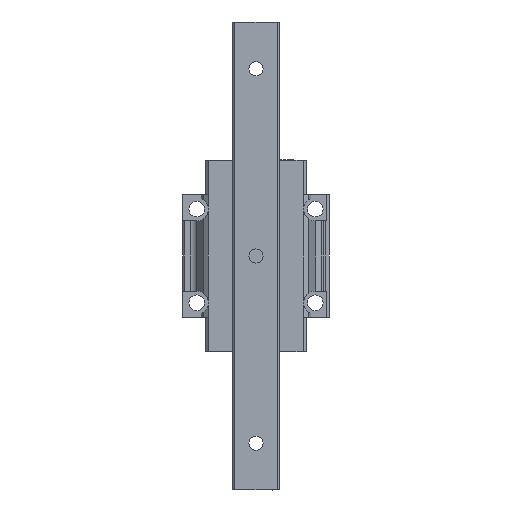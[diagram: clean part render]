
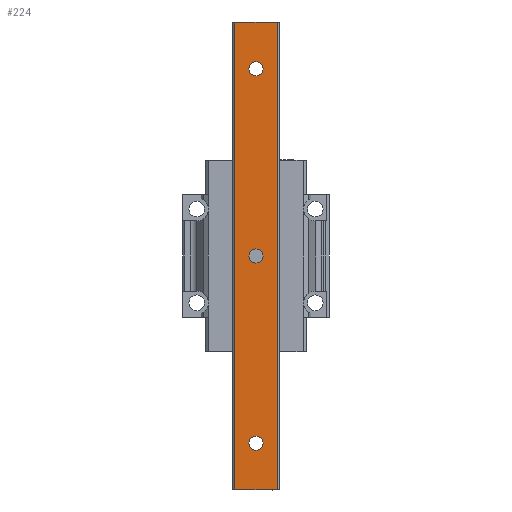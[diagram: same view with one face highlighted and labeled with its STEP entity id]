
A CAD part, front view. The second image highlights one B-rep face of the part: STEP entity #224.
In plain terms, the highlighted planar face has unit normal (0, -1, 0).
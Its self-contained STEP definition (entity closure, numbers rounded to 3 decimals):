
#117=FACE_BOUND('',#805,.T.);
#118=FACE_BOUND('',#806,.T.);
#119=FACE_BOUND('',#807,.T.);
#120=FACE_BOUND('',#808,.T.);
#224=ADVANCED_FACE('',(#117,#118,#119,#120),#434,.T.);
#434=PLANE('',#4336);
#805=EDGE_LOOP('',(#1203,#1204,#1205,#1206));
#806=EDGE_LOOP('',(#1207));
#807=EDGE_LOOP('',(#1208));
#808=EDGE_LOOP('',(#1209));
#1056=CIRCLE('',#4333,2.25);
#1057=CIRCLE('',#4334,2.25);
#1058=CIRCLE('',#4335,2.25);
#1203=ORIENTED_EDGE('',*,*,#2775,.T.);
#1204=ORIENTED_EDGE('',*,*,#2776,.F.);
#1205=ORIENTED_EDGE('',*,*,#2777,.F.);
#1206=ORIENTED_EDGE('',*,*,#2728,.T.);
#1207=ORIENTED_EDGE('',*,*,#2778,.T.);
#1208=ORIENTED_EDGE('',*,*,#2779,.T.);
#1209=ORIENTED_EDGE('',*,*,#2780,.T.);
#2326=VERTEX_POINT('',#5764);
#2327=VERTEX_POINT('',#5766);
#2361=VERTEX_POINT('',#5858);
#2362=VERTEX_POINT('',#5862);
#2363=VERTEX_POINT('',#5865);
#2364=VERTEX_POINT('',#5867);
#2365=VERTEX_POINT('',#5869);
#2728=EDGE_CURVE('',#2327,#2326,#3320,.T.);
#2775=EDGE_CURVE('',#2326,#2361,#3353,.T.);
#2776=EDGE_CURVE('',#2362,#2361,#3354,.T.);
#2777=EDGE_CURVE('',#2327,#2362,#3355,.T.);
#2778=EDGE_CURVE('',#2363,#2363,#1056,.T.);
#2779=EDGE_CURVE('',#2364,#2364,#1057,.T.);
#2780=EDGE_CURVE('',#2365,#2365,#1058,.T.);
#3320=LINE('',#5765,#3813);
#3353=LINE('',#5859,#3846);
#3354=LINE('',#5861,#3847);
#3355=LINE('',#5863,#3848);
#3813=VECTOR('',#4634,1.);
#3846=VECTOR('',#4719,1.);
#3847=VECTOR('',#4722,1.);
#3848=VECTOR('',#4723,1.);
#4333=AXIS2_PLACEMENT_3D('',#5864,#4724,#4725);
#4334=AXIS2_PLACEMENT_3D('',#5866,#4726,#4727);
#4335=AXIS2_PLACEMENT_3D('',#5868,#4728,#4729);
#4336=AXIS2_PLACEMENT_3D('',#5870,#4730,#4731);
#4634=DIRECTION('',(1.,0.,0.));
#4719=DIRECTION('',(0.,0.,1.));
#4722=DIRECTION('',(1.,0.,0.));
#4723=DIRECTION('',(0.,0.,1.));
#4724=DIRECTION('',(0.,1.,0.));
#4725=DIRECTION('',(1.,0.,0.));
#4726=DIRECTION('',(0.,1.,0.));
#4727=DIRECTION('',(1.,0.,0.));
#4728=DIRECTION('',(0.,1.,0.));
#4729=DIRECTION('',(-1.,0.,0.));
#4730=DIRECTION('',(0.,-1.,0.));
#4731=DIRECTION('',(-1.,0.,0.));
#5764=CARTESIAN_POINT('',(6.8,-15.,-75.));
#5765=CARTESIAN_POINT('',(-6.8,-15.,-75.));
#5766=CARTESIAN_POINT('',(-6.8,-15.,-75.));
#5858=CARTESIAN_POINT('',(6.8,-15.,75.));
#5859=CARTESIAN_POINT('',(6.8,-15.,-75.));
#5861=CARTESIAN_POINT('',(-6.8,-15.,75.));
#5862=CARTESIAN_POINT('',(-6.8,-15.,75.));
#5863=CARTESIAN_POINT('',(-6.8,-15.,-75.));
#5864=CARTESIAN_POINT('',(0.,-15.,0.));
#5865=CARTESIAN_POINT('',(2.25,-15.,0.));
#5866=CARTESIAN_POINT('',(0.,-15.,-60.));
#5867=CARTESIAN_POINT('',(2.25,-15.,-60.));
#5868=CARTESIAN_POINT('',(0.,-15.,60.));
#5869=CARTESIAN_POINT('',(-2.25,-15.,60.));
#5870=CARTESIAN_POINT('',(-7.48,-15.,-82.5));
